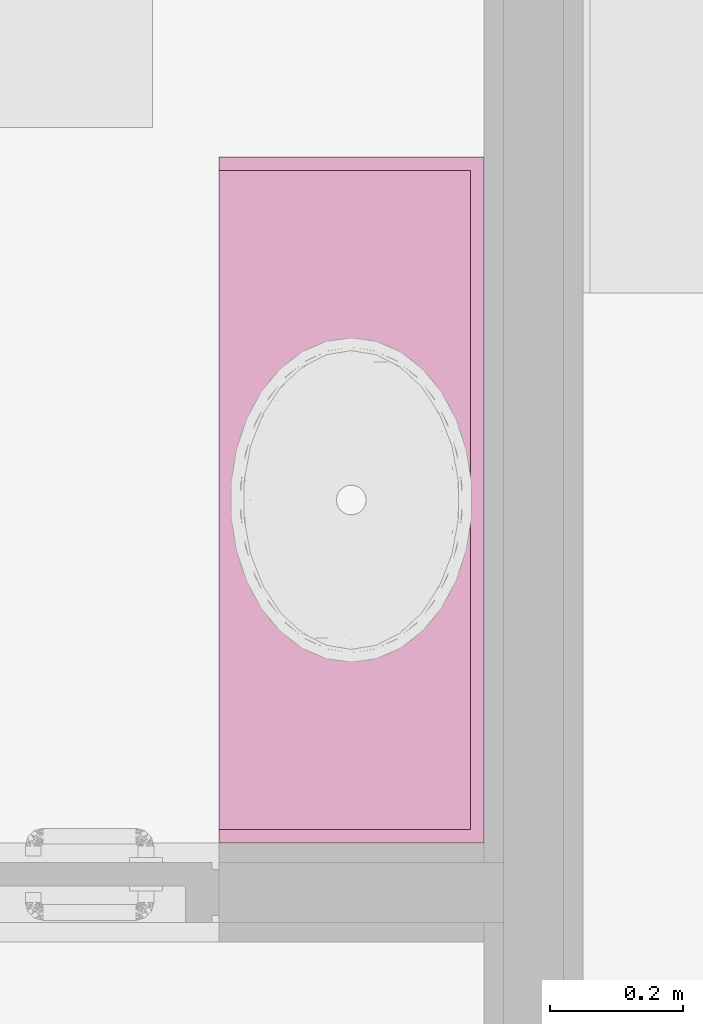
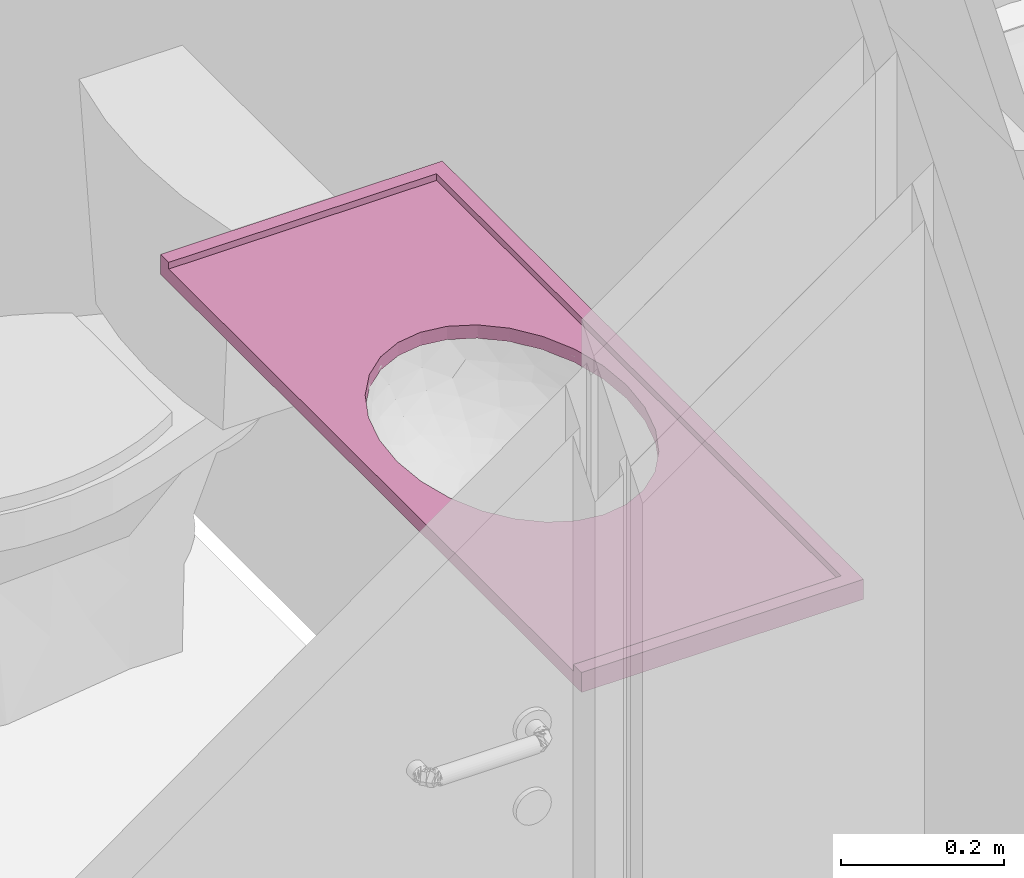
# One storey, part 79 of 155: 1 furnishing.
"""IFC2X3 building model written with IfcOpenShell, lengths in metres."""

import ifcopenshell
import ifcopenshell.guid

model = None  # the IFC model being written
_history = None  # IfcOwnerHistory: only IFC2X3 demands one
_inside = {}  # id of a spatial element -> (the spatial element, [elements in it])
_under = {}  # id of a project, library or spatial element -> (it, [spatial elements below it])
_declared = {}  # id of a project -> (the project, [libraries it declares])
_typed = {}  # id of a type object -> (the type object, [elements of that type])
_made_of = {}  # id of a material, layer set ... -> (it, [elements and type objects made of it])


def new_model(schema):
    """Start an empty IFC model of exactly this schema.

    Asked for "IFC4X3", IfcOpenShell would pick the latest addendum, in which some entities
    have other attributes; the version numbers below select the first issue.
    IFC2X3 requires an IfcOwnerHistory on every rooted entity: one is made here for all.
    """
    global model, _history
    if schema == "IFC4X3":
        model = ifcopenshell.file(schema_version=(4, 3, 0, 0))
    else:
        model = ifcopenshell.file(schema=schema)
    _inside.clear()
    _under.clear()
    _declared.clear()
    _typed.clear()
    _made_of.clear()
    _history = None
    if model.schema == "IFC2X3":
        org = make("IfcOrganization", Name="unknown")
        user = make(
            "IfcPersonAndOrganization",
            ThePerson=make("IfcPerson", FamilyName="unknown"),
            TheOrganization=org,
        )
        app = make(
            "IfcApplication",
            ApplicationDeveloper=org,
            Version="unknown",
            ApplicationFullName="unknown",
            ApplicationIdentifier="unknown",
        )
        _history = make(
            "IfcOwnerHistory",
            OwningUser=user,
            OwningApplication=app,
            ChangeAction="ADDED",
            CreationDate=0,
        )
    return model


def make(cls, **values):
    """One entity of the class cls with the attributes given. An attribute that is None is left unset."""
    return model.create_entity(
        cls, **{name: value for name, value in values.items() if value is not None}
    )


def entity(cls, *values):
    """Any entity or typed value of the class cls, its attributes in the order of the schema. None: left unset."""
    e = model.create_entity(cls)
    for i, value in enumerate(values):
        if value is not None:
            e[i] = value
    return e


def rooted(cls, **values):
    """An entity with a GlobalId (a new one), such as an element, a storey or a relation."""
    return make(cls, GlobalId=ifcopenshell.guid.new(), OwnerHistory=_history, **values)


def si_unit(unit_type, name, prefix=None):
    """IfcSIUnit, for example si_unit("LENGTHUNIT", "METRE", prefix="MILLI")."""
    return make("IfcSIUnit", UnitType=unit_type, Prefix=prefix, Name=name)


def converted_unit(unit_type, name, factor, base, dimensions=None, offset=None):
    """IfcConversionBasedUnit, such as the inch: factor (a typed value) times the base unit."""
    return make(
        "IfcConversionBasedUnit"
        if offset is None
        else "IfcConversionBasedUnitWithOffset",
        ConversionOffset=offset,
        Dimensions=None
        if dimensions is None
        else entity("IfcDimensionalExponents", *dimensions),
        UnitType=unit_type,
        Name=name,
        ConversionFactor=make(
            "IfcMeasureWithUnit", ValueComponent=factor, UnitComponent=base
        ),
    )


def derived_unit(unit_type, elements):
    """IfcDerivedUnit: a product of units, each with its exponent."""
    return make(
        "IfcDerivedUnit",
        Elements=[
            make("IfcDerivedUnitElement", Unit=unit, Exponent=power)
            for unit, power in elements
        ],
        UnitType=unit_type,
    )


def assignment(units):
    """IfcUnitAssignment: the units of a project."""
    return None if units is None else make("IfcUnitAssignment", Units=units)


def point(xyz):
    """IfcCartesianPoint."""
    return None if xyz is None else make("IfcCartesianPoint", Coordinates=xyz)


def direction(xyz):
    """IfcDirection."""
    return None if xyz is None else make("IfcDirection", DirectionRatios=xyz)


def frame(location, z_axis=None, x_axis=None):
    """IfcAxis2Placement3D, a coordinate frame: its origin and axes. An axis left out is left unset."""
    return make(
        "IfcAxis2Placement3D",
        Location=point(location),
        Axis=direction(z_axis),
        RefDirection=direction(x_axis),
    )


def frame_2d(location, x_axis=None):
    """IfcAxis2Placement2D, a coordinate frame in the plane: its origin and x axis."""
    return make(
        "IfcAxis2Placement2D", Location=point(location), RefDirection=direction(x_axis)
    )


def origin():
    """The frame at (0, 0, 0) with its axes left unset."""
    return frame((0.0, 0.0, 0.0))


def place(relative_to, where):
    """IfcLocalPlacement: puts the frame where relative to a parent placement (None: the world)."""
    return make(
        "IfcLocalPlacement", PlacementRelTo=relative_to, RelativePlacement=where
    )


def context(
    kind, dimensions, precision=None, world=None, true_north=None, identifier=None
):
    """IfcGeometricRepresentationContext, for example the 3D "Model" context."""
    return make(
        "IfcGeometricRepresentationContext",
        ContextIdentifier=identifier,
        ContextType=kind,
        CoordinateSpaceDimension=dimensions,
        Precision=precision,
        WorldCoordinateSystem=world,
        TrueNorth=true_north,
    )


def subcontext(parent, identifier, kind, view, scale=None):
    """IfcGeometricRepresentationSubContext, for example "Body" below "Model"."""
    return make(
        "IfcGeometricRepresentationSubContext",
        ContextIdentifier=identifier,
        ContextType=kind,
        ParentContext=parent,
        TargetScale=scale,
        TargetView=view,
    )


def project(units=None, contexts=None):
    """IfcProject with its units and contexts."""
    return rooted(
        "IfcProject",
        Name="project",
        RepresentationContexts=contexts,
        UnitsInContext=assignment(units),
    )


def spatial(cls, under=None, at=None, **own):
    """A site, building, storey or space (cls), placed at a placement, below another one or the project."""
    s = rooted(cls, ObjectPlacement=at, **own)
    if under is not None:
        _under.setdefault(under.id(), (under, []))[1].append(s)
    return s


def polyline(points):
    """IfcPolyline through the points."""
    return make("IfcPolyline", Points=[point(p) for p in points])


def profile(cls, at=None, kind="AREA", **sizes):
    """A parametric profile (cls). Its sizes go by their IFC names, for example OverallWidth=200.0."""
    return make(cls, ProfileType=kind, Position=at, **sizes)


def rectangle(**sizes):
    """IfcRectangleProfileDef."""
    return profile("IfcRectangleProfileDef", **sizes)


def outline(outer, holes=None, kind="AREA"):
    """IfcArbitraryClosedProfileDef: a profile drawn as a closed curve; with holes, ...WithVoids."""
    if holes is None:
        return make("IfcArbitraryClosedProfileDef", ProfileType=kind, OuterCurve=outer)
    return make(
        "IfcArbitraryProfileDefWithVoids",
        ProfileType=kind,
        OuterCurve=outer,
        InnerCurves=holes,
    )


def extrude(swept, where, along, depth):
    """IfcExtrudedAreaSolid: the profile swept, set in the frame where, extruded along a direction by depth."""
    return make(
        "IfcExtrudedAreaSolid",
        SweptArea=swept,
        Position=where,
        ExtrudedDirection=direction(along),
        Depth=depth,
    )


def shape(context_of_items, identifier, shape_type, items):
    """IfcShapeRepresentation: the items that make up one representation, for example the "Body"."""
    return make(
        "IfcShapeRepresentation",
        ContextOfItems=context_of_items,
        RepresentationIdentifier=identifier,
        RepresentationType=shape_type,
        Items=items,
    )


def source(mapping_origin, context_of_items, identifier, shape_type, items):
    """IfcRepresentationMap: a shape defined once, which mapped items show again and again."""
    return make(
        "IfcRepresentationMap",
        MappingOrigin=mapping_origin,
        MappedRepresentation=shape(context_of_items, identifier, shape_type, items),
    )


def transform(
    local_origin,
    x_axis=None,
    y_axis=None,
    z_axis=None,
    scale=None,
    scale2=None,
    scale3=None,
    uniform=True,
):
    """IfcCartesianTransformationOperator3D, or its non-uniform kind. x_axis, y_axis, z_axis: its Axis1, 2, 3."""
    if uniform:
        return make(
            "IfcCartesianTransformationOperator3D",
            Axis1=direction(x_axis),
            Axis2=direction(y_axis),
            LocalOrigin=point(local_origin),
            Scale=scale,
            Axis3=direction(z_axis),
        )
    return make(
        "IfcCartesianTransformationOperator3DnonUniform",
        Axis1=direction(x_axis),
        Axis2=direction(y_axis),
        LocalOrigin=point(local_origin),
        Scale=scale,
        Axis3=direction(z_axis),
        Scale2=scale2,
        Scale3=scale3,
    )


def mapped(mapping_source, mapping_target):
    """IfcMappedItem: shows the shape of a source again, moved by a transform."""
    return make(
        "IfcMappedItem", MappingSource=mapping_source, MappingTarget=mapping_target
    )


def made_of(thing, what):
    """Note that an element or type object is made of a material, layer set ...; save() writes the relation."""
    if what is not None:
        _made_of.setdefault(what.id(), (what, []))[1].append(thing)
    return thing


def type_object(cls, material=None, **own):
    """A type object (cls), such as IfcWallType, which elements share."""
    return made_of(rooted(cls, **own), material)


def type_shapes(of_type, sources):
    """Give a type object the sources (RepresentationMaps) that its elements show as mapped items."""
    of_type.RepresentationMaps = sources


def element(
    cls,
    number,
    at=None,
    inside=None,
    cuts=None,
    type_object=None,
    material=None,
    context=None,
    identifier="Body",
    shape_type=None,
    held_by="IfcProductDefinitionShape",
    body=None,
    shapes=None,
    **own,
):
    """One element of the class cls, such as IfcWall. Its Tag is "e" and its number.

    at: its placement. inside: the storey or other place that contains it. cuts: it is an
    opening in that element (IfcRelVoidsElement). A single representation is given by context,
    identifier, shape_type and body (its items); several are given by shapes. held_by: the class
    of the entity that holds the representations. save() writes the other relations.
    """
    e = rooted(cls, Tag="e%d" % number, ObjectPlacement=at, **own)
    if body is not None:
        shapes = [shape(context, identifier, shape_type, body)]
    if shapes is not None:
        e.Representation = make(held_by, Representations=shapes)
    if inside is not None:
        _inside.setdefault(inside.id(), (inside, []))[1].append(e)
    if cuts is not None:
        rooted(
            "IfcRelVoidsElement", RelatingBuildingElement=cuts, RelatedOpeningElement=e
        )
    if type_object is not None:
        _typed.setdefault(type_object.id(), (type_object, []))[1].append(e)
    return made_of(e, material)


def aggregate(whole, parts):
    """IfcRelAggregates: a whole, such as a stair, and the parts it consists of."""
    return rooted("IfcRelAggregates", RelatingObject=whole, RelatedObjects=parts)


def save(model, path):
    """Write the relations noted so far, then the file.

    IfcRelAggregates (storeys below a building ...), IfcRelContainedInSpatialStructure (elements
    in a storey), IfcRelDefinesByType, IfcRelAssociatesMaterial and IfcRelDeclares: one each for
    every whole, place, type object, material and project.
    """
    for whole, parts in _under.values():
        aggregate(whole, parts)
    for where, things in _inside.values():
        rooted(
            "IfcRelContainedInSpatialStructure",
            RelatedElements=things,
            RelatingStructure=where,
        )
    for kind, things in _typed.values():
        rooted("IfcRelDefinesByType", RelatedObjects=things, RelatingType=kind)
    for what, things in _made_of.values():
        rooted("IfcRelAssociatesMaterial", RelatedObjects=things, RelatingMaterial=what)
    for by, libraries in _declared.values():
        rooted("IfcRelDeclares", RelatingContext=by, RelatedDefinitions=libraries)
    model.write(path)


model = new_model("IFC2X3")

# Units and contexts
model_context = context("Model", 3, precision=1e-05, world=origin(), true_north=direction((6.12303176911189e-17, 1.0)))
body_context = subcontext(model_context, "Body", "Model", "MODEL_VIEW")
ifc_project = project(units=[si_unit("LENGTHUNIT", "METRE"), si_unit("AREAUNIT", "SQUARE_METRE"), si_unit("VOLUMEUNIT", "CUBIC_METRE"), converted_unit("PLANEANGLEUNIT", "DEGREE", entity("IfcRatioMeasure", 0.0174532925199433), si_unit("PLANEANGLEUNIT", "RADIAN"), dimensions=[0, 0, 0, 0, 0, 0, 0]), si_unit("MASSUNIT", "GRAM", prefix="KILO"), derived_unit("MASSDENSITYUNIT", [(si_unit("MASSUNIT", "GRAM", prefix="KILO"), 1), (si_unit("LENGTHUNIT", "METRE"), -3)]), si_unit("TIMEUNIT", "SECOND"), si_unit("FREQUENCYUNIT", "HERTZ"), si_unit("THERMODYNAMICTEMPERATUREUNIT", "DEGREE_CELSIUS"), derived_unit("THERMALTRANSMITTANCEUNIT", [(si_unit("MASSUNIT", "GRAM", prefix="KILO"), 1), (si_unit("THERMODYNAMICTEMPERATUREUNIT", "KELVIN"), -1), (si_unit("TIMEUNIT", "SECOND"), -3)]), derived_unit("VOLUMETRICFLOWRATEUNIT", [(si_unit("LENGTHUNIT", "METRE"), 3), (si_unit("TIMEUNIT", "SECOND"), -1)]), si_unit("ELECTRICCURRENTUNIT", "AMPERE"), si_unit("ELECTRICVOLTAGEUNIT", "VOLT"), si_unit("POWERUNIT", "WATT"), si_unit("FORCEUNIT", "NEWTON", prefix="KILO"), si_unit("ILLUMINANCEUNIT", "LUX"), si_unit("LUMINOUSFLUXUNIT", "LUMEN"), si_unit("LUMINOUSINTENSITYUNIT", "CANDELA"), derived_unit("USERDEFINED", [(si_unit("MASSUNIT", "GRAM", prefix="KILO"), -1), (si_unit("LENGTHUNIT", "METRE"), -2), (si_unit("TIMEUNIT", "SECOND"), 3), (si_unit("LUMINOUSFLUXUNIT", "LUMEN"), 1)]), derived_unit("LINEARVELOCITYUNIT", [(si_unit("LENGTHUNIT", "METRE"), 1), (si_unit("TIMEUNIT", "SECOND"), -1)]), si_unit("PRESSUREUNIT", "PASCAL"), derived_unit("USERDEFINED", [(si_unit("LENGTHUNIT", "METRE"), -2), (si_unit("MASSUNIT", "GRAM", prefix="KILO"), 1), (si_unit("TIMEUNIT", "SECOND"), -2)])], contexts=[model_context])

# Site, building, storey, space
site_placement = place(None, frame((26.9889013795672, -17.5624287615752, 0.0)))
site = spatial("IfcSite", under=ifc_project, at=site_placement, Name="Default", CompositionType="ELEMENT")
building_placement = place(site_placement, origin())
building = spatial("IfcBuilding", under=site, at=building_placement, Name="C. C. L. Monsenhor Antônio Sampaio", CompositionType="ELEMENT")
storey_placement = place(building_placement, frame((0.0, 0.0, 1.19999999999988)))
storey = spatial("IfcBuildingStorey", under=building, at=storey_placement, Name="Nível 1.2", CompositionType="ELEMENT", Elevation=1.19999999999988)
space_placement = place(storey_placement, origin())
space = spatial("IfcSpace", under=storey, at=space_placement, Name="86", CompositionType="ELEMENT", InteriorOrExteriorSpace="INTERNAL")

# Furnishing
furniture_type = type_object("IfcFurnitureType", Name="Bancada_50x320 2")
shared_shape = source(origin(), body_context, "Body", "SweptSolid", [
    extrude(outline(polyline([(-0.517499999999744, -0.200006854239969), (0.517499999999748, -0.200006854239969), (0.517499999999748, 0.20000685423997), (-0.517499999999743, 0.200006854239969), (-0.517499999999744, -0.200006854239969)]), holes=[polyline([(0.225455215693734, -3.42711989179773e-06), (0.220160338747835, -0.0349438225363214), (0.20431287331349, -0.0686521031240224), (0.178188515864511, -0.0996104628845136), (0.142752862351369, -0.126002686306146), (0.0996853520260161, -0.146161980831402), (0.0512323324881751, -0.158793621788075), (0.0, -0.163094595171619), (-0.05123233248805, -0.158793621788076), (-0.099685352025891, -0.146161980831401), (-0.142752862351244, -0.126002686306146), (-0.17818851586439, -0.0996104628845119), (-0.204312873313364, -0.0686521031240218), (-0.220160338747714, -0.0349438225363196), (-0.225455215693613, -3.42711989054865e-06), (-0.220160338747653, 0.0349369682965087), (-0.204312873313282, 0.0686452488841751), (-0.17818851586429, 0.0996036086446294), (-0.142752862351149, 0.125995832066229), (-0.0996853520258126, 0.146155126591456), (-0.0512323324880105, 0.158786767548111), (0.0, 0.163087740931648), (0.0512323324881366, 0.158786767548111), (0.0996853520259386, 0.146155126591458), (0.142752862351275, 0.125995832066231), (0.17818851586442, 0.0996036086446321), (0.204312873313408, 0.0686452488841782), (0.220160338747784, 0.0349369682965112), (0.225455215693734, -3.42711989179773e-06)])]), frame((3.52944085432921, -30.4955663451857, 2.06999999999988), z_axis=(0.0, 0.0, 1.0), x_axis=(0.0, -1.0, 0.0)), (0.0, 0.0, 1.0), 0.0200000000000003),
    extrude(rectangle(XDim=1.03499999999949, YDim=0.0199999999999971, at=frame_2d((2.16493489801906e-15, 0.0), x_axis=(1.0, 0.0))), frame((3.71944770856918, -30.4955663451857, 2.08999999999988), z_axis=(0.0, 0.0, 1.0), x_axis=(0.0, -1.0, 0.0)), (0.0, 0.0, 1.0), 0.0100000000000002),
    extrude(rectangle(XDim=0.380013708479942, YDim=0.0199999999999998, at=frame_2d((0.0, -2.16580225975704e-15), x_axis=(1.0, 0.0))), frame((3.51944085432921, -29.988066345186, 2.08999999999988)), (0.0, 0.0, 1.0), 0.0100000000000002),
    extrude(rectangle(XDim=0.380013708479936, YDim=0.0200000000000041, at=frame_2d((0.0, -4.33160451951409e-15), x_axis=(1.0, 0.0))), frame((3.51944085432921, -31.0030663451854, 2.08999999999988)), (0.0, 0.0, 1.0), 0.0100000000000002),
])
type_shapes(furniture_type, [shared_shape])
furnishing_placement = place(space_placement, frame((0.0, 0.0, -1.19999999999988)))
element("IfcFurnishingElement", 1, at=furnishing_placement, inside=space, type_object=furniture_type, Name="Bancada1:Bancada_50x320 2", ObjectType="Bancada_50x320 2", context=body_context, shape_type="MappedRepresentation", body=[
    mapped(shared_shape, transform((0.0, 0.0, 0.0), scale=1.0)),
])

save(model, "model.ifc")
